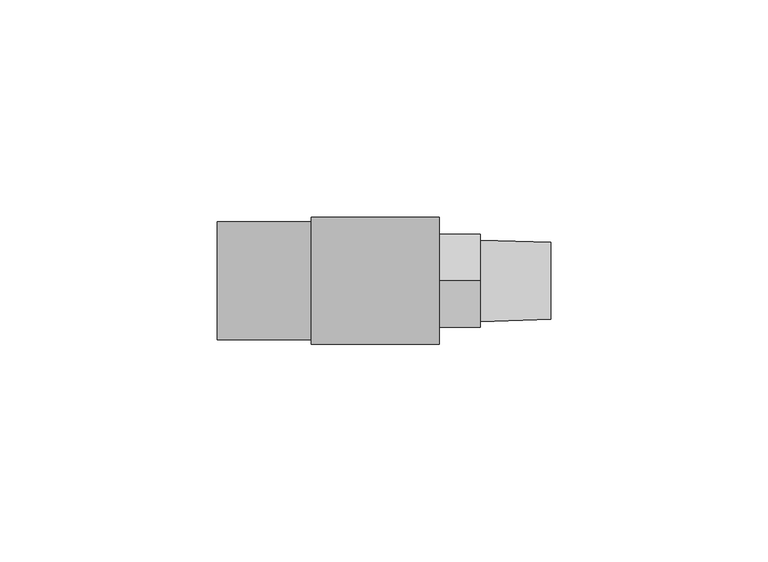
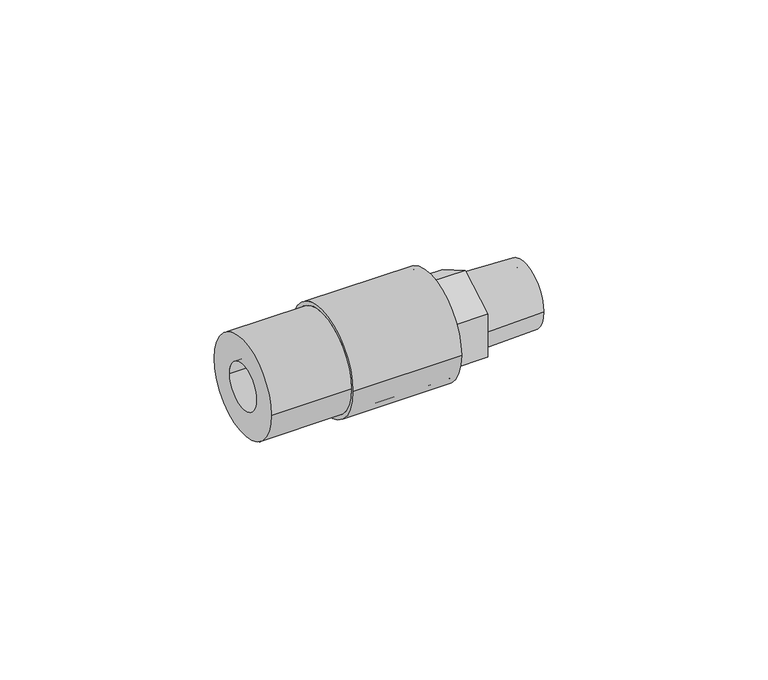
"""IFC4 building model written with IfcOpenShell, lengths in millimetres: pipe fitting geometry, Aquatherm - Fusion Outlet Transition Male : POTABLE BRASS - HEX."""

import ifcopenshell
import ifcopenshell.guid

model = None  # the IFC model being written
_history = None  # IfcOwnerHistory: only IFC2X3 demands one
_inside = {}  # id of a spatial element -> (the spatial element, [elements in it])
_under = {}  # id of a project, library or spatial element -> (it, [spatial elements below it])
_declared = {}  # id of a project -> (the project, [libraries it declares])
_typed = {}  # id of a type object -> (the type object, [elements of that type])
_made_of = {}  # id of a material, layer set ... -> (it, [elements and type objects made of it])


def new_model(schema):
    """Start an empty IFC model of exactly this schema.

    Asked for "IFC4X3", IfcOpenShell would pick the latest addendum, in which some entities
    have other attributes; the version numbers below select the first issue.
    IFC2X3 requires an IfcOwnerHistory on every rooted entity: one is made here for all.
    """
    global model, _history
    if schema == "IFC4X3":
        model = ifcopenshell.file(schema_version=(4, 3, 0, 0))
    else:
        model = ifcopenshell.file(schema=schema)
    _inside.clear()
    _under.clear()
    _declared.clear()
    _typed.clear()
    _made_of.clear()
    _history = None
    if model.schema == "IFC2X3":
        org = make("IfcOrganization", Name="unknown")
        user = make(
            "IfcPersonAndOrganization",
            ThePerson=make("IfcPerson", FamilyName="unknown"),
            TheOrganization=org,
        )
        app = make(
            "IfcApplication",
            ApplicationDeveloper=org,
            Version="unknown",
            ApplicationFullName="unknown",
            ApplicationIdentifier="unknown",
        )
        _history = make(
            "IfcOwnerHistory",
            OwningUser=user,
            OwningApplication=app,
            ChangeAction="ADDED",
            CreationDate=0,
        )
    return model


def make(cls, **values):
    """One entity of the class cls with the attributes given. An attribute that is None is left unset."""
    return model.create_entity(
        cls, **{name: value for name, value in values.items() if value is not None}
    )


def rooted(cls, **values):
    """An entity with a GlobalId (a new one), such as an element, a storey or a relation."""
    return make(cls, GlobalId=ifcopenshell.guid.new(), OwnerHistory=_history, **values)


def si_unit(unit_type, name, prefix=None):
    """IfcSIUnit, for example si_unit("LENGTHUNIT", "METRE", prefix="MILLI")."""
    return make("IfcSIUnit", UnitType=unit_type, Prefix=prefix, Name=name)


def assignment(units):
    """IfcUnitAssignment: the units of a project."""
    return None if units is None else make("IfcUnitAssignment", Units=units)


def point(xyz):
    """IfcCartesianPoint."""
    return None if xyz is None else make("IfcCartesianPoint", Coordinates=xyz)


def direction(xyz):
    """IfcDirection."""
    return None if xyz is None else make("IfcDirection", DirectionRatios=xyz)


def frame(location, z_axis=None, x_axis=None):
    """IfcAxis2Placement3D, a coordinate frame: its origin and axes. An axis left out is left unset."""
    return make(
        "IfcAxis2Placement3D",
        Location=point(location),
        Axis=direction(z_axis),
        RefDirection=direction(x_axis),
    )


def origin():
    """The frame at (0, 0, 0) with its axes left unset."""
    return frame((0.0, 0.0, 0.0))


def place(relative_to, where):
    """IfcLocalPlacement: puts the frame where relative to a parent placement (None: the world)."""
    return make(
        "IfcLocalPlacement", PlacementRelTo=relative_to, RelativePlacement=where
    )


def context(
    kind, dimensions, precision=None, world=None, true_north=None, identifier=None
):
    """IfcGeometricRepresentationContext, for example the 3D "Model" context."""
    return make(
        "IfcGeometricRepresentationContext",
        ContextIdentifier=identifier,
        ContextType=kind,
        CoordinateSpaceDimension=dimensions,
        Precision=precision,
        WorldCoordinateSystem=world,
        TrueNorth=true_north,
    )


def project(units=None, contexts=None):
    """IfcProject with its units and contexts."""
    return rooted(
        "IfcProject",
        Name="project",
        RepresentationContexts=contexts,
        UnitsInContext=assignment(units),
    )


def spatial(cls, under=None, at=None, **own):
    """A site, building, storey or space (cls), placed at a placement, below another one or the project."""
    s = rooted(cls, ObjectPlacement=at, **own)
    if under is not None:
        _under.setdefault(under.id(), (under, []))[1].append(s)
    return s


def polyline(points):
    """IfcPolyline through the points."""
    return make("IfcPolyline", Points=[point(p) for p in points])


def circle_curve(where, radius):
    """IfcCircle in the frame where."""
    return make("IfcCircle", Position=where, Radius=radius)


def shape(context_of_items, identifier, shape_type, items):
    """IfcShapeRepresentation: the items that make up one representation, for example the "Body"."""
    return make(
        "IfcShapeRepresentation",
        ContextOfItems=context_of_items,
        RepresentationIdentifier=identifier,
        RepresentationType=shape_type,
        Items=items,
    )


def source(mapping_origin, context_of_items, identifier, shape_type, items):
    """IfcRepresentationMap: a shape defined once, which mapped items show again and again."""
    return make(
        "IfcRepresentationMap",
        MappingOrigin=mapping_origin,
        MappedRepresentation=shape(context_of_items, identifier, shape_type, items),
    )


def transform(
    local_origin,
    x_axis=None,
    y_axis=None,
    z_axis=None,
    scale=None,
    scale2=None,
    scale3=None,
    uniform=True,
):
    """IfcCartesianTransformationOperator3D, or its non-uniform kind. x_axis, y_axis, z_axis: its Axis1, 2, 3."""
    if uniform:
        return make(
            "IfcCartesianTransformationOperator3D",
            Axis1=direction(x_axis),
            Axis2=direction(y_axis),
            LocalOrigin=point(local_origin),
            Scale=scale,
            Axis3=direction(z_axis),
        )
    return make(
        "IfcCartesianTransformationOperator3DnonUniform",
        Axis1=direction(x_axis),
        Axis2=direction(y_axis),
        LocalOrigin=point(local_origin),
        Scale=scale,
        Axis3=direction(z_axis),
        Scale2=scale2,
        Scale3=scale3,
    )


def mapped(mapping_source, mapping_target):
    """IfcMappedItem: shows the shape of a source again, moved by a transform."""
    return make(
        "IfcMappedItem", MappingSource=mapping_source, MappingTarget=mapping_target
    )


def made_of(thing, what):
    """Note that an element or type object is made of a material, layer set ...; save() writes the relation."""
    if what is not None:
        _made_of.setdefault(what.id(), (what, []))[1].append(thing)
    return thing


def element(
    cls,
    number,
    at=None,
    inside=None,
    cuts=None,
    type_object=None,
    material=None,
    context=None,
    identifier="Body",
    shape_type=None,
    held_by="IfcProductDefinitionShape",
    body=None,
    shapes=None,
    **own,
):
    """One element of the class cls, such as IfcWall. Its Tag is "e" and its number.

    at: its placement. inside: the storey or other place that contains it. cuts: it is an
    opening in that element (IfcRelVoidsElement). A single representation is given by context,
    identifier, shape_type and body (its items); several are given by shapes. held_by: the class
    of the entity that holds the representations. save() writes the other relations.
    """
    e = rooted(cls, Tag="e%d" % number, ObjectPlacement=at, **own)
    if body is not None:
        shapes = [shape(context, identifier, shape_type, body)]
    if shapes is not None:
        e.Representation = make(held_by, Representations=shapes)
    if inside is not None:
        _inside.setdefault(inside.id(), (inside, []))[1].append(e)
    if cuts is not None:
        rooted(
            "IfcRelVoidsElement", RelatingBuildingElement=cuts, RelatedOpeningElement=e
        )
    if type_object is not None:
        _typed.setdefault(type_object.id(), (type_object, []))[1].append(e)
    return made_of(e, material)


def aggregate(whole, parts):
    """IfcRelAggregates: a whole, such as a stair, and the parts it consists of."""
    return rooted("IfcRelAggregates", RelatingObject=whole, RelatedObjects=parts)


def save(model, path):
    """Write the relations noted so far, then the file.

    IfcRelAggregates (storeys below a building ...), IfcRelContainedInSpatialStructure (elements
    in a storey), IfcRelDefinesByType, IfcRelAssociatesMaterial and IfcRelDeclares: one each for
    every whole, place, type object, material and project.
    """
    for whole, parts in _under.values():
        aggregate(whole, parts)
    for where, things in _inside.values():
        rooted(
            "IfcRelContainedInSpatialStructure",
            RelatedElements=things,
            RelatingStructure=where,
        )
    for kind, things in _typed.values():
        rooted("IfcRelDefinesByType", RelatedObjects=things, RelatingType=kind)
    for what, things in _made_of.values():
        rooted("IfcRelAssociatesMaterial", RelatedObjects=things, RelatingMaterial=what)
    for by, libraries in _declared.values():
        rooted("IfcRelDeclares", RelatingContext=by, RelatedDefinitions=libraries)
    model.write(path)


def plane_surface(at):
    """IfcPlane: the flat surface through the origin of the frame at, square to its z axis."""
    return make("IfcPlane", Position=at)


def cylinder_surface(at, radius):
    """IfcCylindricalSurface: all points at the distance radius from the z axis of the frame at."""
    return make("IfcCylindricalSurface", Position=at, Radius=radius)


def revolved_surface(curve, axis_point, axis_direction):
    """IfcSurfaceOfRevolution: the curve turned about the line through axis_point along axis_direction."""
    return make(
        "IfcSurfaceOfRevolution",
        SweptCurve=make("IfcArbitraryOpenProfileDef", ProfileType="CURVE", Curve=curve),
        AxisPosition=make("IfcAxis1Placement", Location=point(axis_point), Axis=direction(axis_direction)),
    )


def advanced_brep(points, edges, surfaces, faces):
    """IfcAdvancedBrep: a solid bounded by faces that lie on surfaces and meet in shared edges.

    An edge is (start, end): straight between two places in points (the first is 0);
    or (start, end, curve); or (start, end, curve, False) where it runs against its curve.
    A face is (place in surfaces, loops), or (place, loops, False) where it looks against
    its surface's normal. A loop lists edges by number (the first is 1), with a minus sign
    where the edge is run from its end to its start. The first loop is the outer one.
    """
    corners = [point(p) for p in points]
    vertices = [make("IfcVertexPoint", VertexGeometry=c) for c in corners]
    made = []
    for start, end, *more in edges:
        made.append(
            make(
                "IfcEdgeCurve",
                EdgeStart=vertices[start],
                EdgeEnd=vertices[end],
                EdgeGeometry=more[0] if more else make("IfcPolyline", Points=[corners[start], corners[end]]),
                SameSense=more[1] if len(more) > 1 else True,
            )
        )
    hull = []
    for where, loops, *sense in faces:
        bounds = []
        for j, loop in enumerate(loops):
            ring = [make("IfcOrientedEdge", EdgeElement=made[abs(k) - 1], Orientation=k > 0) for k in loop]
            bounds.append(
                make(
                    "IfcFaceOuterBound" if j == 0 else "IfcFaceBound",
                    Bound=make("IfcEdgeLoop", EdgeList=ring),
                    Orientation=True,
                )
            )
        hull.append(make("IfcAdvancedFace", Bounds=bounds, FaceSurface=surfaces[where], SameSense=sense[0] if sense else True))
    return make("IfcAdvancedBrep", Outer=make("IfcClosedShell", CfsFaces=hull))


def pipe_fitting_84c51b5b(model_context):
    return source(origin(), model_context, "Body", "AdvancedBrep", [
        advanced_brep(
        [(9.445625, 13.589, 0.0), (9.445625, -13.589, 0.0), (9.445625, 6.35, 0.0), (9.445625, -6.35, 0.0), (29.257625, 13.589, 0.0), (29.257625, -13.589, 0.0), (29.257625, 0.0, -12.3183453), (29.257625, -10.668, -6.1591727), (29.257625, -10.668, 6.1591727), (29.257625, 0.0, 12.3183453), (29.257625, 10.668, 6.1591727), (29.257625, 10.668, -6.1591727), (29.257625, 6.35, 0.0), (29.257625, -6.35, 0.0), (38.909625, 0.0, -12.3183453), (38.909625, 10.668, -6.1591727), (38.909625, 10.668, 6.1591727), (38.909625, 0.0, 12.3183453), (38.909625, -10.668, 6.1591727), (38.909625, -10.668, -6.1591727), (38.909625, 9.3810449, 0.0), (38.909625, -9.3810449, 0.0), (38.909625, 6.35, 0.0), (38.909625, -6.35, 0.0), (55.165625, -6.35, 0.0), (55.165625, 6.35, 0.0), (55.165625, -8.8752051, 0.0), (55.165625, 8.8752051, 0.0)],
        [
            (0, 1, circle_curve(frame((9.445625, 0.0, 0.0), z_axis=(-1.0, 0.0, 0.0), x_axis=(0.0, -1.0, 0.0)), 13.589)),
            (1, 0, circle_curve(frame((9.445625, 0.0, 0.0), z_axis=(-1.0, 0.0, 0.0), x_axis=(0.0, -1.0, 0.0)), 13.589)),
            (2, 3, circle_curve(frame((9.445625, 0.0, 0.0), z_axis=(1.0, 0.0, 0.0), x_axis=(0.0, -1.0, 0.0)), 6.35)),
            (3, 2, circle_curve(frame((9.445625, 0.0, 0.0), z_axis=(1.0, 0.0, 0.0), x_axis=(0.0, -1.0, 0.0)), 6.35)),
            (4, 5, circle_curve(frame((29.257625, 0.0, 0.0), z_axis=(1.0, 0.0, 0.0), x_axis=(0.0, -1.0, 0.0)), 13.589)),
            (5, 4, circle_curve(frame((29.257625, 0.0, 0.0), z_axis=(1.0, 0.0, 0.0), x_axis=(0.0, -1.0, 0.0)), 13.589)),
            (6, 7),
            (7, 8),
            (8, 9),
            (9, 10),
            (10, 11),
            (11, 6),
            (0, 4),
            (5, 1),
            (2, 12),
            (12, 13, circle_curve(frame((29.257625, 0.0, 0.0), z_axis=(1.0, 0.0, 0.0), x_axis=(0.0, -1.0, 0.0)), 6.35)),
            (13, 3),
            (13, 12, circle_curve(frame((29.257625, 0.0, 0.0), z_axis=(1.0, 0.0, 0.0), x_axis=(0.0, -1.0, 0.0)), 6.35)),
            (14, 15),
            (15, 16),
            (16, 17),
            (17, 18),
            (18, 19),
            (19, 14),
            (20, 21, circle_curve(frame((38.909625, 0.0, 0.0), z_axis=(-1.0, 0.0, 0.0), x_axis=(0.0, -1.0, 0.0)), 9.3810449)),
            (21, 20, circle_curve(frame((38.909625, 0.0, 0.0), z_axis=(-1.0, 0.0, 0.0), x_axis=(0.0, -1.0, 0.0)), 9.3810449)),
            (19, 7),
            (6, 14),
            (18, 8),
            (17, 9),
            (16, 10),
            (15, 11),
            (12, 22),
            (22, 23, circle_curve(frame((38.909625, 0.0, 0.0), z_axis=(1.0, 0.0, 0.0), x_axis=(0.0, -1.0, 0.0)), 6.35)),
            (23, 13),
            (23, 22, circle_curve(frame((38.909625, 0.0, 0.0), z_axis=(1.0, 0.0, 0.0), x_axis=(0.0, -1.0, 0.0)), 6.35)),
            (23, 24),
            (24, 25, circle_curve(frame((55.165625, 0.0, 0.0), z_axis=(1.0, 0.0, 0.0), x_axis=(0.0, -1.0, 0.0)), 6.35)),
            (25, 22),
            (25, 24, circle_curve(frame((55.165625, 0.0, 0.0), z_axis=(1.0, 0.0, 0.0), x_axis=(0.0, -1.0, 0.0)), 6.35)),
            (24, 26),
            (26, 27, circle_curve(frame((55.165625, 0.0, 0.0), z_axis=(1.0, 0.0, 0.0), x_axis=(0.0, -1.0, 0.0)), 8.8752051)),
            (27, 25),
            (27, 26, circle_curve(frame((55.165625, 0.0, 0.0), z_axis=(1.0, 0.0, 0.0), x_axis=(0.0, -1.0, 0.0)), 8.8752051)),
            (26, 21),
            (20, 27),
        ],
        [
            plane_surface(frame((9.445625, -13.589, 0.0), z_axis=(-1.0, 0.0, 0.0), x_axis=(0.0, 0.0, 1.0))),
            plane_surface(frame((29.257625, -13.589, 0.0), z_axis=(1.0, 0.0, 0.0), x_axis=(0.0, 0.0, -1.0))),
            cylinder_surface(frame((29.257625, 0.0, 0.0), z_axis=(-1.0, 0.0, 0.0), x_axis=(0.0, -1.0, 0.0)), 13.589),
            revolved_surface(polyline([(29.257625, -6.35, 0.0), (9.445625, -6.35, 0.0)]), (11.810406, 0.0, 0.0), (1.0, 0.0, 0.0)),
            plane_surface(frame((38.909625, 0.0, -12.3183453), z_axis=(1.0, 0.0, 0.0), x_axis=(0.0, 0.8660254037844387, -0.5))),
            plane_surface(frame((29.257625, 0.0, -12.3183453), z_axis=(0.0, -0.5, -0.8660254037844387), x_axis=(1.0, 0.0, 0.0))),
            plane_surface(frame((29.257625, -10.668, -6.1591727), z_axis=(0.0, -1.0, 0.0), x_axis=(1.0, 0.0, 0.0))),
            plane_surface(frame((29.257625, -10.668, 6.1591727), z_axis=(0.0, -0.49999999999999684, 0.8660254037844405), x_axis=(1.0, 0.0, 0.0))),
            plane_surface(frame((29.257625, 0.0, 12.3183453), z_axis=(0.0, 0.5000000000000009, 0.8660254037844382), x_axis=(1.0, 0.0, 0.0))),
            plane_surface(frame((29.257625, 10.668, 6.1591727), z_axis=(0.0, 1.0, 0.0), x_axis=(1.0, 0.0, 0.0))),
            plane_surface(frame((29.257625, 10.668, -6.1591727), z_axis=(0.0, 0.49999999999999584, -0.8660254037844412), x_axis=(1.0, 0.0, 0.0))),
            revolved_surface(polyline([(38.909625, -6.35, 0.0), (29.257625, -6.35, 0.0)]), (29.257625, 0.0, 0.0), (1.0, 0.0, 0.0)),
            revolved_surface(polyline([(55.165625, -6.35, 0.0), (38.909625, -6.35, 0.0)]), (90.0386938, 0.0, 0.0), (1.0, 0.0, 0.0)),
            plane_surface(frame((55.165625, 0.0, 0.0), z_axis=(1.0, 0.0, 0.0), x_axis=(0.0, -1.0, 0.0))),
            revolved_surface(polyline([(38.909625, -9.3810449, 0.0), (55.165625, -8.8752051, 0.0)]), (90.0386938, 0.0, 0.0), (1.0, 0.0, 0.0)),
        ],
        [
            (0, [[1, 2], [3, 4]]),
            (1, [[5, 6], [7, 8, 9, 10, 11, 12]]),
            (2, [[-1, 13, -6, 14]]),
            (2, [[-2, -14, -5, -13]]),
            (3, [[-3, 15, 16, 17]]),
            (3, [[-4, -17, 18, -15]]),
            (4, [[19, 20, 21, 22, 23, 24], [25, 26]]),
            (5, [[-24, 27, -7, 28]]),
            (6, [[-23, 29, -8, -27]]),
            (7, [[-22, 30, -9, -29]]),
            (8, [[-21, 31, -10, -30]]),
            (9, [[-20, 32, -11, -31]]),
            (10, [[-19, -28, -12, -32]]),
            (11, [[33, 34, 35, -16]]),
            (11, [[-33, -18, -35, 36]]),
            (12, [[37, 38, 39, -36]]),
            (12, [[-37, -34, -39, 40]]),
            (13, [[-38, 41, 42, 43]]),
            (13, [[-40, -43, 44, -41]]),
            (14, [[-42, 45, -25, 46]]),
            (14, [[-44, -46, -26, -45]]),
        ],
    ),
        advanced_brep(
        [(9.4257813, 13.5929688, 0.0), (9.4257813, -13.5929687, 0.0), (9.4257813, 6.35, 0.0), (9.4257813, -6.35, 0.0), (-21.6243243, -6.35, 0.0), (-21.6243243, 6.35, 0.0), (-21.6243243, -13.5929688, 0.0), (-21.6243243, 13.5929688, 0.0), (0.0, 13.5929688, 0.0), (0.0, -13.5929688, 0.0), (29.4441562, 14.6347656, 0.0), (29.4441562, -14.6347656, 0.0), (29.4441562, 13.5929688, 0.0), (29.4441562, -13.5929687, 0.0), (0.0, -14.6347656, 0.0), (0.0, 14.6347656, 0.0)],
        [
            (0, 1, circle_curve(frame((9.4257813, 0.0, 0.0), z_axis=(1.0, 0.0, 0.0), x_axis=(0.0, -1.0, 0.0)), 13.5929688)),
            (1, 0, circle_curve(frame((9.4257813, 0.0, 0.0), z_axis=(1.0, 0.0, 0.0), x_axis=(0.0, -1.0, 0.0)), 13.5929688)),
            (2, 3, circle_curve(frame((9.4257813, 0.0, 0.0), z_axis=(-1.0, 0.0, 0.0), x_axis=(0.0, -1.0, 0.0)), 6.35)),
            (3, 2, circle_curve(frame((9.4257813, 0.0, 0.0), z_axis=(-1.0, 0.0, 0.0), x_axis=(0.0, -1.0, 0.0)), 6.35)),
            (4, 5, circle_curve(frame((-21.6243243, 0.0, 0.0), z_axis=(-1.0, 0.0, 0.0), x_axis=(0.0, -1.0, 0.0)), 6.35)),
            (5, 2),
            (3, 4),
            (5, 4, circle_curve(frame((-21.6243243, 0.0, 0.0), z_axis=(-1.0, 0.0, 0.0), x_axis=(0.0, -1.0, 0.0)), 6.35)),
            (6, 7, circle_curve(frame((-21.6243243, 0.0, 0.0), z_axis=(1.0, 0.0, 0.0), x_axis=(0.0, -1.0, 0.0)), 13.5929688)),
            (7, 8),
            (8, 9, circle_curve(frame((0.0, 0.0, 0.0), z_axis=(-1.0, 0.0, 0.0), x_axis=(0.0, -1.0, 0.0)), 13.5929688)),
            (9, 6),
            (7, 6, circle_curve(frame((-21.6243243, 0.0, 0.0), z_axis=(1.0, 0.0, 0.0), x_axis=(0.0, -1.0, 0.0)), 13.5929688)),
            (9, 8, circle_curve(frame((0.0, 0.0, 0.0), z_axis=(-1.0, 0.0, 0.0), x_axis=(0.0, -1.0, 0.0)), 13.5929688)),
            (10, 11, circle_curve(frame((29.4441562, 0.0, 0.0), z_axis=(1.0, 0.0, 0.0), x_axis=(0.0, -1.0, 0.0)), 14.6347656)),
            (11, 10, circle_curve(frame((29.4441562, 0.0, 0.0), z_axis=(1.0, 0.0, 0.0), x_axis=(0.0, -1.0, 0.0)), 14.6347656)),
            (12, 13, circle_curve(frame((29.4441562, 0.0, 0.0), z_axis=(-1.0, 0.0, 0.0), x_axis=(0.0, -1.0, 0.0)), 13.5929688)),
            (13, 12, circle_curve(frame((29.4441562, 0.0, 0.0), z_axis=(-1.0, 0.0, 0.0), x_axis=(0.0, -1.0, 0.0)), 13.5929688)),
            (13, 1),
            (0, 12),
            (11, 14),
            (14, 15, circle_curve(frame((0.0, 0.0, 0.0), z_axis=(1.0, 0.0, 0.0), x_axis=(0.0, -1.0, 0.0)), 14.6347656)),
            (15, 10),
            (15, 14, circle_curve(frame((0.0, 0.0, 0.0), z_axis=(1.0, 0.0, 0.0), x_axis=(0.0, -1.0, 0.0)), 14.6347656)),
        ],
        [
            plane_surface(frame((9.4257813, -6.35, 0.0), z_axis=(1.0, 0.0, 0.0), x_axis=(0.0, 0.0, 1.0))),
            revolved_surface(polyline([(9.4257813, -6.35, 0.0), (-21.6243243, -6.35, 0.0)]), (9.4257813, 0.0, 0.0), (1.0, 0.0, 0.0)),
            cylinder_surface(frame((0.0, 0.0, 0.0), z_axis=(-1.0, 0.0, 0.0), x_axis=(0.0, -1.0, 0.0)), 13.5929688),
            plane_surface(frame((29.4441562, -13.5929687, 0.0), z_axis=(1.0, 0.0, 0.0), x_axis=(0.0, 0.0, 1.0))),
            revolved_surface(polyline([(29.4441562, -13.5929688, 0.0), (9.4257813, -13.5929688, 0.0)]), (29.4441562, 0.0, 0.0), (1.0, 0.0, 0.0)),
            cylinder_surface(frame((0.0, 0.0, 0.0), z_axis=(-1.0, 0.0, 0.0), x_axis=(0.0, -1.0, 0.0)), 14.6347656),
            plane_surface(frame((-21.6243243, -6.35, 0.0), z_axis=(-1.0, 0.0, 0.0), x_axis=(0.0, 0.0, -1.0))),
            plane_surface(frame((0.0, -13.5929687, 0.0), z_axis=(-1.0, 0.0, 0.0), x_axis=(0.0, 0.0, -1.0))),
        ],
        [
            (0, [[1, 2], [3, 4]]),
            (1, [[5, 6, -4, 7]]),
            (1, [[8, -7, -3, -6]]),
            (2, [[9, 10, 11, 12]]),
            (2, [[13, -12, 14, -10]]),
            (3, [[15, 16], [17, 18]]),
            (4, [[-18, 19, -1, 20]]),
            (4, [[-17, -20, -2, -19]]),
            (5, [[-16, 21, 22, 23]]),
            (5, [[-15, -23, 24, -21]]),
            (6, [[-9, -13], [-5, -8]]),
            (7, [[-22, -24], [-11, -14]]),
        ],
    ),
    ])


if __name__ == "__main__":
    model = new_model("IFC4")
    model_context = context("Model", 3, world=origin())
    ifc_project = project(units=[si_unit("LENGTHUNIT", "METRE", prefix="MILLI")], contexts=[model_context])
    site = spatial("IfcSite", under=ifc_project)
    building = spatial("IfcBuilding", under=site)
    placement = place(None, origin())
    pipe_fitting_shape = pipe_fitting_84c51b5b(model_context)
    element("IfcPipeFitting", 1, ObjectType="Aquatherm - Fusion Outlet Transition Male : POTABLE BRASS - HEX", at=placement, inside=building, context=model_context, shape_type="MappedRepresentation", body=[
        mapped(pipe_fitting_shape, transform((0.0, 0.0, 0.0), x_axis=(1.0, 0.0, 0.0), y_axis=(0.0, 1.0, 0.0), z_axis=(0.0, 0.0, 1.0))),
    ])
    save(model, "model.ifc")
